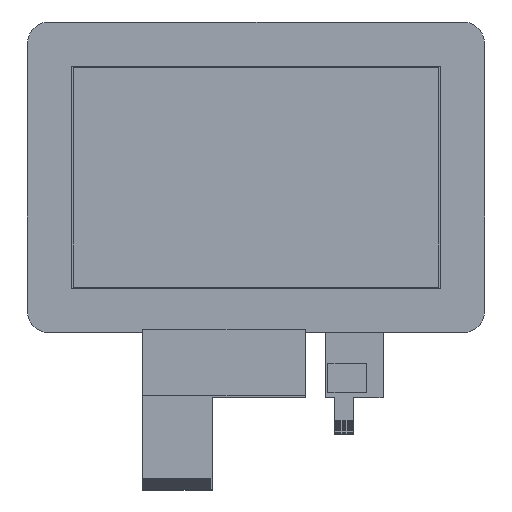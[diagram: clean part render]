
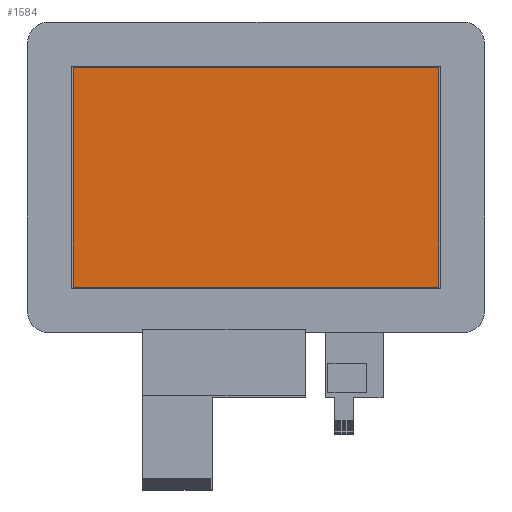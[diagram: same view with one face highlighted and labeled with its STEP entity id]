
A CAD part, top view. The second image highlights one B-rep face of the part: STEP entity #1584.
In plain terms, the highlighted planar face has unit normal (0, 0, 1).
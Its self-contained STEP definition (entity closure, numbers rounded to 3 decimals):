
#198 = CARTESIAN_POINT ( 'NONE',  ( 54., 32.4, 1.97 ) ) ;
#410 = DIRECTION ( 'NONE',  ( 1., 0., 0. ) ) ;
#1176 = VERTEX_POINT ( 'NONE', #2734 ) ;
#1404 = EDGE_CURVE ( 'NONE', #8007, #12146, #14104, .T. ) ;
#1437 = PLANE ( 'NONE',  #15338 ) ;
#1584 = ADVANCED_FACE ( 'NONE', ( #14479 ), #1437, .T. ) ;
#2245 = VECTOR ( 'NONE', #14181, 1000. ) ;
#2352 = VECTOR ( 'NONE', #10666, 1000. ) ;
#2407 = CARTESIAN_POINT ( 'NONE',  ( 54., -39.55, 1.97 ) ) ;
#2734 = CARTESIAN_POINT ( 'NONE',  ( -54., -32.4, 1.97 ) ) ;
#3192 = DIRECTION ( 'NONE',  ( -1., 0., 0. ) ) ;
#3451 = LINE ( 'NONE', #12125, #7192 ) ;
#5108 = ORIENTED_EDGE ( 'NONE', *, *, #11214, .F. ) ;
#5515 = ORIENTED_EDGE ( 'NONE', *, *, #10815, .F. ) ;
#5991 = EDGE_CURVE ( 'NONE', #12146, #1176, #6997, .T. ) ;
#6997 = LINE ( 'NONE', #8058, #14858 ) ;
#7192 = VECTOR ( 'NONE', #13394, 1000. ) ;
#7675 = CARTESIAN_POINT ( 'NONE',  ( -54., 32.4, 1.97 ) ) ;
#8007 = VERTEX_POINT ( 'NONE', #198 ) ;
#8058 = CARTESIAN_POINT ( 'NONE',  ( -61.15, -32.4, 1.97 ) ) ;
#8656 = ORIENTED_EDGE ( 'NONE', *, *, #5991, .F. ) ;
#9192 = VERTEX_POINT ( 'NONE', #7675 ) ;
#9268 = LINE ( 'NONE', #11666, #2352 ) ;
#10666 = DIRECTION ( 'NONE',  ( 1., 0., 0. ) ) ;
#10815 = EDGE_CURVE ( 'NONE', #9192, #8007, #9268, .T. ) ;
#11214 = EDGE_CURVE ( 'NONE', #1176, #9192, #3451, .T. ) ;
#11246 = CARTESIAN_POINT ( 'NONE',  ( -61.15, -39.55, 1.97 ) ) ;
#11666 = CARTESIAN_POINT ( 'NONE',  ( -61.15, 32.4, 1.97 ) ) ;
#12125 = CARTESIAN_POINT ( 'NONE',  ( -54., -39.55, 1.97 ) ) ;
#12146 = VERTEX_POINT ( 'NONE', #15181 ) ;
#13394 = DIRECTION ( 'NONE',  ( 0., 1., 0. ) ) ;
#13421 = ORIENTED_EDGE ( 'NONE', *, *, #1404, .F. ) ;
#14104 = LINE ( 'NONE', #2407, #2245 ) ;
#14181 = DIRECTION ( 'NONE',  ( 0., -1., 0. ) ) ;
#14479 = FACE_OUTER_BOUND ( 'NONE', #15475, .T. ) ;
#14858 = VECTOR ( 'NONE', #3192, 1000. ) ;
#15099 = DIRECTION ( 'NONE',  ( 0., 0., 1. ) ) ;
#15181 = CARTESIAN_POINT ( 'NONE',  ( 54., -32.4, 1.97 ) ) ;
#15338 = AXIS2_PLACEMENT_3D ( 'NONE', #11246, #15099, #410 ) ;
#15475 = EDGE_LOOP ( 'NONE', ( #5108, #8656, #13421, #5515 ) ) ;
